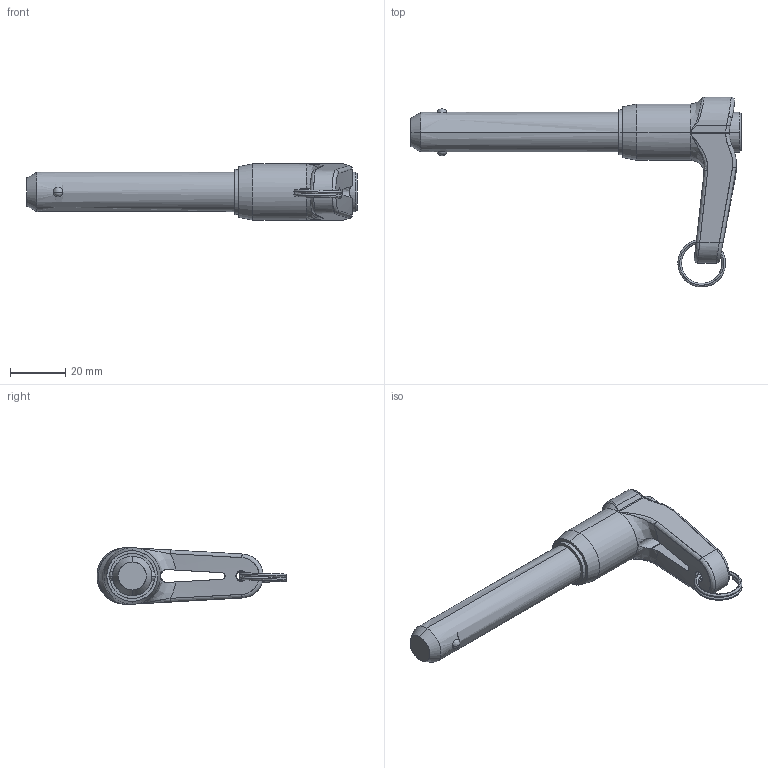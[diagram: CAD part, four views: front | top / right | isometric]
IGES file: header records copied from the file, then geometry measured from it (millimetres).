
Start section: SolidWorks IGES file using analytic representation for surfaces
Global section: file name: C:\Documents and Settings\IANO\My Documents\Wix and Auto CAD Work\CAD Models\Parametric Models\Wix Models\30000\33620_v2\33620_v2_20160606_IGES\33620.G025.igs; native system: SolidWorks 2009; preprocessor: SolidWorks 2009; author: IANO; date: 160615.130153; units: inch
Bounding box: 119.13 x 68.52 x 20.32 mm (x, y, z)
Surface area: 13054 mm2 (no closed solid volume)
Topology: 0 solids, 0 shells, 83 faces, 1227 edges, 1225 vertices
Faces by surface type: bspline 53, revolution 30
